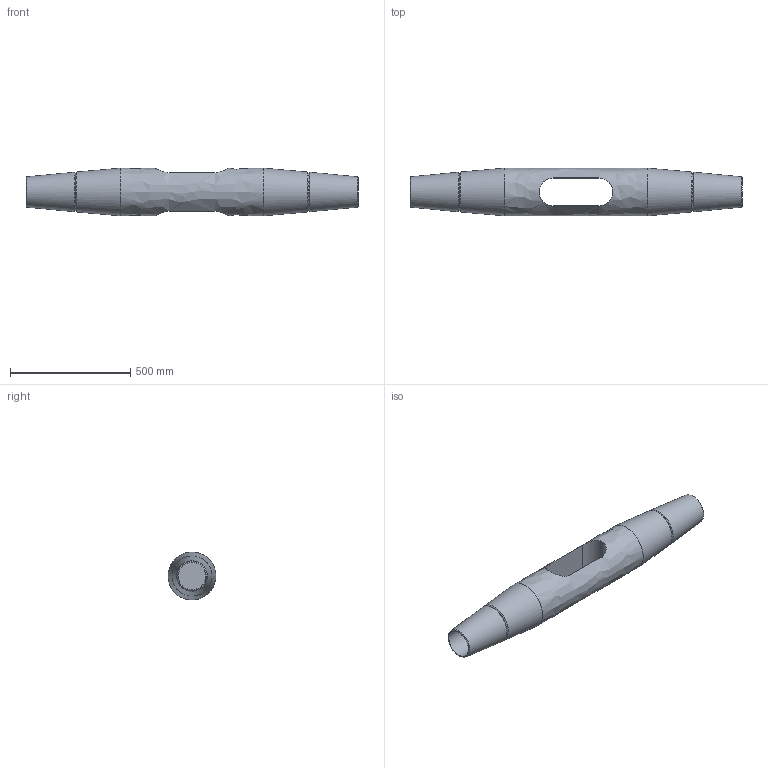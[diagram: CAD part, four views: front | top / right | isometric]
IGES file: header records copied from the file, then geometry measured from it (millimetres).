
Global section: file name: 520-110-KMF; native system: Autodesk Inventor 2016; preprocessor: unknown; author: Administrator; date: 20200702.133012; units: centimetre
Bounding box: 1378 x 198 x 197.98 mm (x, y, z)
Volume: 25645093.5 mm3; surface area: 962940.8 mm2
Topology: 1 solids, 1 shells, 21 faces, 53 edges, 36 vertices
Faces by surface type: bspline 21
